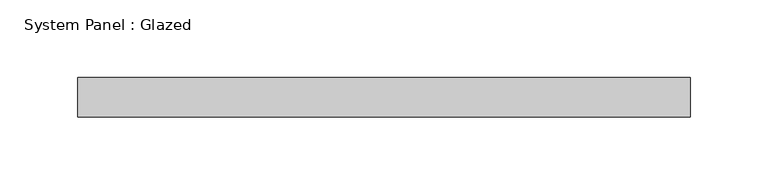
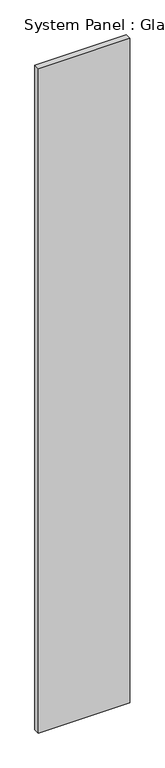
"""IFC4 building model written with IfcOpenShell, lengths in millimetres: plate geometry, System Panel : Glazed."""

import ifcopenshell
import ifcopenshell.guid

model = None  # the IFC model being written
_history = None  # IfcOwnerHistory: only IFC2X3 demands one
_inside = {}  # id of a spatial element -> (the spatial element, [elements in it])
_under = {}  # id of a project, library or spatial element -> (it, [spatial elements below it])
_declared = {}  # id of a project -> (the project, [libraries it declares])
_typed = {}  # id of a type object -> (the type object, [elements of that type])
_made_of = {}  # id of a material, layer set ... -> (it, [elements and type objects made of it])


def new_model(schema):
    """Start an empty IFC model of exactly this schema.

    Asked for "IFC4X3", IfcOpenShell would pick the latest addendum, in which some entities
    have other attributes; the version numbers below select the first issue.
    IFC2X3 requires an IfcOwnerHistory on every rooted entity: one is made here for all.
    """
    global model, _history
    if schema == "IFC4X3":
        model = ifcopenshell.file(schema_version=(4, 3, 0, 0))
    else:
        model = ifcopenshell.file(schema=schema)
    _inside.clear()
    _under.clear()
    _declared.clear()
    _typed.clear()
    _made_of.clear()
    _history = None
    if model.schema == "IFC2X3":
        org = make("IfcOrganization", Name="unknown")
        user = make(
            "IfcPersonAndOrganization",
            ThePerson=make("IfcPerson", FamilyName="unknown"),
            TheOrganization=org,
        )
        app = make(
            "IfcApplication",
            ApplicationDeveloper=org,
            Version="unknown",
            ApplicationFullName="unknown",
            ApplicationIdentifier="unknown",
        )
        _history = make(
            "IfcOwnerHistory",
            OwningUser=user,
            OwningApplication=app,
            ChangeAction="ADDED",
            CreationDate=0,
        )
    return model


def make(cls, **values):
    """One entity of the class cls with the attributes given. An attribute that is None is left unset."""
    return model.create_entity(
        cls, **{name: value for name, value in values.items() if value is not None}
    )


def rooted(cls, **values):
    """An entity with a GlobalId (a new one), such as an element, a storey or a relation."""
    return make(cls, GlobalId=ifcopenshell.guid.new(), OwnerHistory=_history, **values)


def si_unit(unit_type, name, prefix=None):
    """IfcSIUnit, for example si_unit("LENGTHUNIT", "METRE", prefix="MILLI")."""
    return make("IfcSIUnit", UnitType=unit_type, Prefix=prefix, Name=name)


def assignment(units):
    """IfcUnitAssignment: the units of a project."""
    return None if units is None else make("IfcUnitAssignment", Units=units)


def point(xyz):
    """IfcCartesianPoint."""
    return None if xyz is None else make("IfcCartesianPoint", Coordinates=xyz)


def direction(xyz):
    """IfcDirection."""
    return None if xyz is None else make("IfcDirection", DirectionRatios=xyz)


def frame(location, z_axis=None, x_axis=None):
    """IfcAxis2Placement3D, a coordinate frame: its origin and axes. An axis left out is left unset."""
    return make(
        "IfcAxis2Placement3D",
        Location=point(location),
        Axis=direction(z_axis),
        RefDirection=direction(x_axis),
    )


def origin():
    """The frame at (0, 0, 0) with its axes left unset."""
    return frame((0.0, 0.0, 0.0))


def origin_with_axes():
    """The frame at (0, 0, 0) with the z axis (0, 0, 1) and the x axis (1, 0, 0) written out."""
    return frame((0.0, 0.0, 0.0), z_axis=(0.0, 0.0, 1.0), x_axis=(1.0, 0.0, 0.0))


def place(relative_to, where):
    """IfcLocalPlacement: puts the frame where relative to a parent placement (None: the world)."""
    return make(
        "IfcLocalPlacement", PlacementRelTo=relative_to, RelativePlacement=where
    )


def context(
    kind, dimensions, precision=None, world=None, true_north=None, identifier=None
):
    """IfcGeometricRepresentationContext, for example the 3D "Model" context."""
    return make(
        "IfcGeometricRepresentationContext",
        ContextIdentifier=identifier,
        ContextType=kind,
        CoordinateSpaceDimension=dimensions,
        Precision=precision,
        WorldCoordinateSystem=world,
        TrueNorth=true_north,
    )


def project(units=None, contexts=None):
    """IfcProject with its units and contexts."""
    return rooted(
        "IfcProject",
        Name="project",
        RepresentationContexts=contexts,
        UnitsInContext=assignment(units),
    )


def spatial(cls, under=None, at=None, **own):
    """A site, building, storey or space (cls), placed at a placement, below another one or the project."""
    s = rooted(cls, ObjectPlacement=at, **own)
    if under is not None:
        _under.setdefault(under.id(), (under, []))[1].append(s)
    return s


def polyline(points):
    """IfcPolyline through the points."""
    return make("IfcPolyline", Points=[point(p) for p in points])


def outline(outer, holes=None, kind="AREA"):
    """IfcArbitraryClosedProfileDef: a profile drawn as a closed curve; with holes, ...WithVoids."""
    if holes is None:
        return make("IfcArbitraryClosedProfileDef", ProfileType=kind, OuterCurve=outer)
    return make(
        "IfcArbitraryProfileDefWithVoids",
        ProfileType=kind,
        OuterCurve=outer,
        InnerCurves=holes,
    )


def extrude(swept, where, along, depth):
    """IfcExtrudedAreaSolid: the profile swept, set in the frame where, extruded along a direction by depth."""
    return make(
        "IfcExtrudedAreaSolid",
        SweptArea=swept,
        Position=where,
        ExtrudedDirection=direction(along),
        Depth=depth,
    )


def shape(context_of_items, identifier, shape_type, items):
    """IfcShapeRepresentation: the items that make up one representation, for example the "Body"."""
    return make(
        "IfcShapeRepresentation",
        ContextOfItems=context_of_items,
        RepresentationIdentifier=identifier,
        RepresentationType=shape_type,
        Items=items,
    )


def source(mapping_origin, context_of_items, identifier, shape_type, items):
    """IfcRepresentationMap: a shape defined once, which mapped items show again and again."""
    return make(
        "IfcRepresentationMap",
        MappingOrigin=mapping_origin,
        MappedRepresentation=shape(context_of_items, identifier, shape_type, items),
    )


def transform(
    local_origin,
    x_axis=None,
    y_axis=None,
    z_axis=None,
    scale=None,
    scale2=None,
    scale3=None,
    uniform=True,
):
    """IfcCartesianTransformationOperator3D, or its non-uniform kind. x_axis, y_axis, z_axis: its Axis1, 2, 3."""
    if uniform:
        return make(
            "IfcCartesianTransformationOperator3D",
            Axis1=direction(x_axis),
            Axis2=direction(y_axis),
            LocalOrigin=point(local_origin),
            Scale=scale,
            Axis3=direction(z_axis),
        )
    return make(
        "IfcCartesianTransformationOperator3DnonUniform",
        Axis1=direction(x_axis),
        Axis2=direction(y_axis),
        LocalOrigin=point(local_origin),
        Scale=scale,
        Axis3=direction(z_axis),
        Scale2=scale2,
        Scale3=scale3,
    )


def mapped(mapping_source, mapping_target):
    """IfcMappedItem: shows the shape of a source again, moved by a transform."""
    return make(
        "IfcMappedItem", MappingSource=mapping_source, MappingTarget=mapping_target
    )


def made_of(thing, what):
    """Note that an element or type object is made of a material, layer set ...; save() writes the relation."""
    if what is not None:
        _made_of.setdefault(what.id(), (what, []))[1].append(thing)
    return thing


def element(
    cls,
    number,
    at=None,
    inside=None,
    cuts=None,
    type_object=None,
    material=None,
    context=None,
    identifier="Body",
    shape_type=None,
    held_by="IfcProductDefinitionShape",
    body=None,
    shapes=None,
    **own,
):
    """One element of the class cls, such as IfcWall. Its Tag is "e" and its number.

    at: its placement. inside: the storey or other place that contains it. cuts: it is an
    opening in that element (IfcRelVoidsElement). A single representation is given by context,
    identifier, shape_type and body (its items); several are given by shapes. held_by: the class
    of the entity that holds the representations. save() writes the other relations.
    """
    e = rooted(cls, Tag="e%d" % number, ObjectPlacement=at, **own)
    if body is not None:
        shapes = [shape(context, identifier, shape_type, body)]
    if shapes is not None:
        e.Representation = make(held_by, Representations=shapes)
    if inside is not None:
        _inside.setdefault(inside.id(), (inside, []))[1].append(e)
    if cuts is not None:
        rooted(
            "IfcRelVoidsElement", RelatingBuildingElement=cuts, RelatedOpeningElement=e
        )
    if type_object is not None:
        _typed.setdefault(type_object.id(), (type_object, []))[1].append(e)
    return made_of(e, material)


def aggregate(whole, parts):
    """IfcRelAggregates: a whole, such as a stair, and the parts it consists of."""
    return rooted("IfcRelAggregates", RelatingObject=whole, RelatedObjects=parts)


def save(model, path):
    """Write the relations noted so far, then the file.

    IfcRelAggregates (storeys below a building ...), IfcRelContainedInSpatialStructure (elements
    in a storey), IfcRelDefinesByType, IfcRelAssociatesMaterial and IfcRelDeclares: one each for
    every whole, place, type object, material and project.
    """
    for whole, parts in _under.values():
        aggregate(whole, parts)
    for where, things in _inside.values():
        rooted(
            "IfcRelContainedInSpatialStructure",
            RelatedElements=things,
            RelatingStructure=where,
        )
    for kind, things in _typed.values():
        rooted("IfcRelDefinesByType", RelatedObjects=things, RelatingType=kind)
    for what, things in _made_of.values():
        rooted("IfcRelAssociatesMaterial", RelatedObjects=things, RelatingMaterial=what)
    for by, libraries in _declared.values():
        rooted("IfcRelDeclares", RelatingContext=by, RelatedDefinitions=libraries)
    model.write(path)


def system_panel_glazed_280dc3c4(model_context):
    return source(origin(), model_context, "Body", "SweptSolid", [
        extrude(outline(polyline([(197.4084914, -44.45), (-197.4084914, -44.45), (-197.4084914, -19.05), (197.4084914, -19.05), (197.4084914, -44.45)])), origin_with_axes(), (0.0, 0.0, 1.0), 3035.3),
    ])


if __name__ == "__main__":
    model = new_model("IFC4")
    model_context = context("Model", 3, world=origin())
    ifc_project = project(units=[si_unit("LENGTHUNIT", "METRE", prefix="MILLI")], contexts=[model_context])
    site = spatial("IfcSite", under=ifc_project)
    building = spatial("IfcBuilding", under=site)
    placement = place(None, origin())
    system_panel_glazed_shape = system_panel_glazed_280dc3c4(model_context)
    element("IfcPlate", 1, ObjectType="System Panel : Glazed", at=placement, inside=building, context=model_context, shape_type="MappedRepresentation", body=[
        mapped(system_panel_glazed_shape, transform((0.0, 0.0, 0.0), x_axis=(1.0, 0.0, 0.0), y_axis=(0.0, 1.0, 0.0), z_axis=(0.0, 0.0, 1.0))),
    ])
    save(model, "model.ifc")
